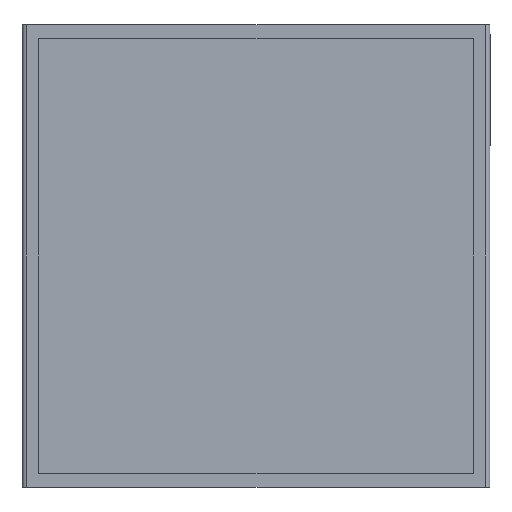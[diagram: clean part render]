
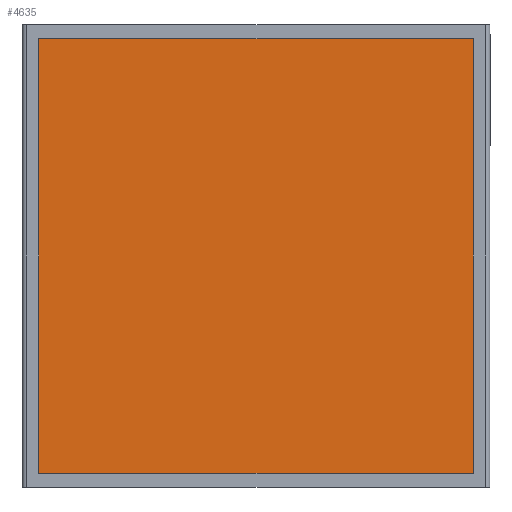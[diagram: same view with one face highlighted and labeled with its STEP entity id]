
A CAD part, front view. The second image highlights one B-rep face of the part: STEP entity #4635.
In plain terms, the highlighted planar face has unit normal (0, -1, 0).
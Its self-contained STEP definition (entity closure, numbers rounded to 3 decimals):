
#160 = LINE ( 'NONE', #3659, #4845 ) ;
#190 = DIRECTION ( 'NONE',  ( -1., 0., 0. ) ) ;
#221 = CARTESIAN_POINT ( 'NONE',  ( 15.228, -3.744, -10.991 ) ) ;
#416 = CARTESIAN_POINT ( 'NONE',  ( 15.228, -3.744, 12.009 ) ) ;
#489 = DIRECTION ( 'NONE',  ( 0., 0., 1. ) ) ;
#535 = VECTOR ( 'NONE', #489, 1000. ) ;
#759 = AXIS2_PLACEMENT_3D ( 'NONE', #3636, #4335, #856 ) ;
#856 = DIRECTION ( 'NONE',  ( 0., 0., 1. ) ) ;
#994 = CARTESIAN_POINT ( 'NONE',  ( -7.772, -3.744, -10.991 ) ) ;
#1255 = LINE ( 'NONE', #2885, #535 ) ;
#1312 = EDGE_CURVE ( 'NONE', #2264, #2943, #4783, .T. ) ;
#1610 = ORIENTED_EDGE ( 'NONE', *, *, #2375, .F. ) ;
#1647 = FACE_OUTER_BOUND ( 'NONE', #2504, .T. ) ;
#1699 = DIRECTION ( 'NONE',  ( 0., 0., -1. ) ) ;
#1715 = DIRECTION ( 'NONE',  ( 1., 0., 0. ) ) ;
#1746 = VECTOR ( 'NONE', #1699, 1000. ) ;
#2179 = ORIENTED_EDGE ( 'NONE', *, *, #3399, .F. ) ;
#2264 = VERTEX_POINT ( 'NONE', #416 ) ;
#2375 = EDGE_CURVE ( 'NONE', #2943, #2521, #3236, .T. ) ;
#2408 = EDGE_CURVE ( 'NONE', #2521, #2878, #1255, .T. ) ;
#2441 = CARTESIAN_POINT ( 'NONE',  ( -7.772, -3.744, -10.991 ) ) ;
#2444 = CARTESIAN_POINT ( 'NONE',  ( 15.228, -3.744, -10.991 ) ) ;
#2504 = EDGE_LOOP ( 'NONE', ( #3567, #1610, #3989, #2179 ) ) ;
#2521 = VERTEX_POINT ( 'NONE', #994 ) ;
#2825 = VECTOR ( 'NONE', #190, 1000. ) ;
#2878 = VERTEX_POINT ( 'NONE', #3468 ) ;
#2885 = CARTESIAN_POINT ( 'NONE',  ( -7.772, -3.744, -10.991 ) ) ;
#2943 = VERTEX_POINT ( 'NONE', #221 ) ;
#3236 = LINE ( 'NONE', #2441, #2825 ) ;
#3399 = EDGE_CURVE ( 'NONE', #2878, #2264, #160, .T. ) ;
#3468 = CARTESIAN_POINT ( 'NONE',  ( -7.772, -3.744, 12.009 ) ) ;
#3567 = ORIENTED_EDGE ( 'NONE', *, *, #2408, .F. ) ;
#3636 = CARTESIAN_POINT ( 'NONE',  ( -7.772, -3.744, 12.009 ) ) ;
#3659 = CARTESIAN_POINT ( 'NONE',  ( -7.772, -3.744, 12.009 ) ) ;
#3989 = ORIENTED_EDGE ( 'NONE', *, *, #1312, .F. ) ;
#4335 = DIRECTION ( 'NONE',  ( 0., 1., 0. ) ) ;
#4383 = PLANE ( 'NONE',  #759 ) ;
#4635 = ADVANCED_FACE ( 'NONE', ( #1647 ), #4383, .F. ) ;
#4783 = LINE ( 'NONE', #2444, #1746 ) ;
#4845 = VECTOR ( 'NONE', #1715, 1000. ) ;
